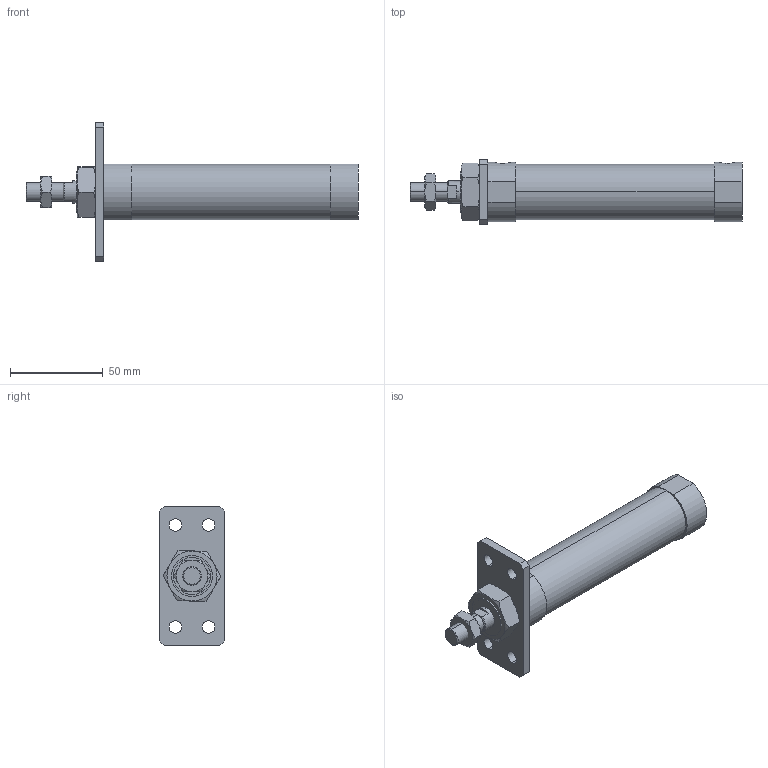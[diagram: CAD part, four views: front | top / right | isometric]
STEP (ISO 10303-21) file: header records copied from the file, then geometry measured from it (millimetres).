
FILE_DESCRIPTION (( 'STEP AP203' ), '1' );
FILE_NAME ('JGND2-25-75-A.STEP', '2016-08-04T02:37:47', ( '' ), ( '' ), 'SwSTEP 2.0', 'SolidWorks 2014', '' );
FILE_SCHEMA (( 'CONFIG_CONTROL_DESIGN' ));
Length unit declared in the file: millimetre
Products named in the file (5): JGND2-25-75-A; J#2-25-75(P); J#2-25-A
Assembly tree (4 placements, depth 2):
  JGND2-25-75-A
    J#2-25-75(P)
    (unnamed)
    (unnamed)
    J#2-25-A
Bounding box: 179 x 35 x 75 mm (x, y, z)
Volume: 118127.3 mm3; surface area: 26766.9 mm2
Topology: 4 solids, 4 shells, 109 faces, 252 edges, 152 vertices
Faces by surface type: plane 45, cylinder 32, torus 24, cone 8
Entity records: 3913 total; most frequent: CARTESIAN_POINT 956, DIRECTION 516, ORIENTED_EDGE 496, EDGE_CURVE 248, AXIS2_PLACEMENT_3D 208, VERTEX_POINT 152, EDGE_LOOP 128, FACE_OUTER_BOUND 109
